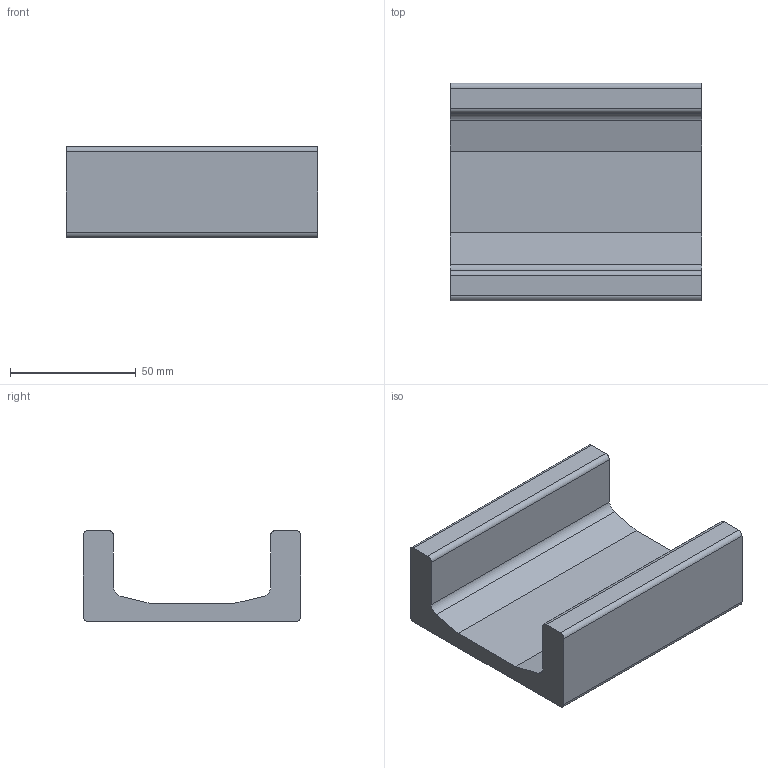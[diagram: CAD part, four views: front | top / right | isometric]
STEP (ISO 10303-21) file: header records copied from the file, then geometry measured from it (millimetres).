
FILE_DESCRIPTION((''),'2;1');
FILE_NAME('K:\Daten\KOMPONENTEN 2D + 3D\KOMPONENTEN Step-Files für extern\ALFATEC_UP 060.0700.stp','2011-07-12T11:10:04',('Wenzelburger'),(''),'Autodesk Inventor 2011','Autodesk Inventor 2011','');
FILE_SCHEMA(('AUTOMOTIVE_DESIGN { 1 0 10303 214 1 1 1 1 }'));
Length unit declared in the file: millimetre
Products named in the file (1): ALFATEC UP 060.0700 (100mm)
Bounding box: 100 x 86.5 x 36 mm (x, y, z)
Volume: 135466.2 mm3; surface area: 31666.6 mm2
Topology: 1 solids, 1 shells, 20 faces, 54 edges, 36 vertices
Faces by surface type: plane 12, cylinder 8
Entity records: 660 total; most frequent: DIRECTION 112, CARTESIAN_POINT 111, ORIENTED_EDGE 108, EDGE_CURVE 54, VECTOR 38, LINE 38, AXIS2_PLACEMENT_3D 37, VERTEX_POINT 36
